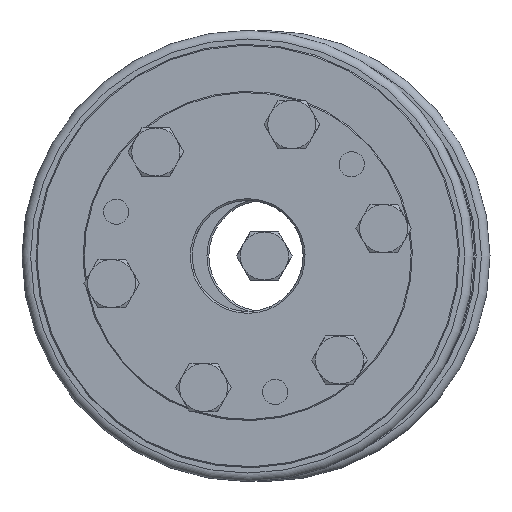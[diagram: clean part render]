
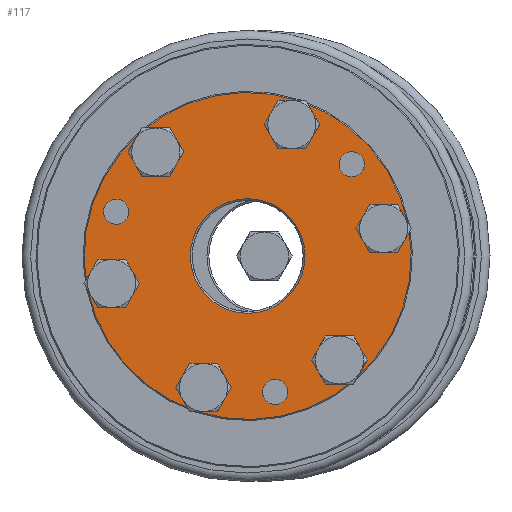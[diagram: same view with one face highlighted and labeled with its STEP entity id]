
A CAD part, left-side view. The second image highlights one B-rep face of the part: STEP entity #117.
In plain terms, the highlighted planar face has unit normal (-1, 0, 0).
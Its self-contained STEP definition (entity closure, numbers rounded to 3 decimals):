
#117 = ADVANCED_FACE( 'NONE', ( #249, #250, #251, #252, #253, #254, #255, #256, #257, #258, #259 ), #260, .F. );
#249 = FACE_OUTER_BOUND( '', #403, .T. );
#250 = FACE_BOUND( '', #404, .T. );
#251 = FACE_BOUND( '', #405, .T. );
#252 = FACE_BOUND( '', #406, .T. );
#253 = FACE_BOUND( '', #407, .T. );
#254 = FACE_BOUND( '', #408, .T. );
#255 = FACE_BOUND( '', #409, .T. );
#256 = FACE_BOUND( '', #410, .T. );
#257 = FACE_BOUND( '', #411, .T. );
#258 = FACE_BOUND( '', #412, .T. );
#259 = FACE_BOUND( '', #413, .T. );
#260 = PLANE( '', #414 );
#403 = EDGE_LOOP( '', ( #663 ) );
#404 = EDGE_LOOP( '', ( #664 ) );
#405 = EDGE_LOOP( '', ( #665 ) );
#406 = EDGE_LOOP( '', ( #666 ) );
#407 = EDGE_LOOP( '', ( #667 ) );
#408 = EDGE_LOOP( '', ( #668 ) );
#409 = EDGE_LOOP( '', ( #669 ) );
#410 = EDGE_LOOP( '', ( #670 ) );
#411 = EDGE_LOOP( '', ( #671 ) );
#412 = EDGE_LOOP( '', ( #672 ) );
#413 = EDGE_LOOP( '', ( #673 ) );
#414 = AXIS2_PLACEMENT_3D( '', #674, #675, #676 );
#663 = ORIENTED_EDGE( '', *, *, #926, .T. );
#664 = ORIENTED_EDGE( '', *, *, #904, .T. );
#665 = ORIENTED_EDGE( '', *, *, #922, .F. );
#666 = ORIENTED_EDGE( '', *, *, #898, .F. );
#667 = ORIENTED_EDGE( '', *, *, #907, .F. );
#668 = ORIENTED_EDGE( '', *, *, #942, .F. );
#669 = ORIENTED_EDGE( '', *, *, #933, .F. );
#670 = ORIENTED_EDGE( '', *, *, #929, .F. );
#671 = ORIENTED_EDGE( '', *, *, #916, .F. );
#672 = ORIENTED_EDGE( '', *, *, #944, .F. );
#673 = ORIENTED_EDGE( '', *, *, #910, .F. );
#674 = CARTESIAN_POINT( '', ( 0., 15., 0. ) );
#675 = DIRECTION( '', ( 1., 0., 0. ) );
#676 = DIRECTION( '', ( 0., 1., 0. ) );
#898 = EDGE_CURVE( 'NONE', #1157, #1157, #1158, .T. );
#904 = EDGE_CURVE( 'NONE', #1167, #1167, #1168, .T. );
#907 = EDGE_CURVE( 'NONE', #1172, #1172, #1173, .T. );
#910 = EDGE_CURVE( 'NONE', #1177, #1177, #1178, .T. );
#916 = EDGE_CURVE( 'NONE', #1187, #1187, #1188, .T. );
#922 = EDGE_CURVE( 'NONE', #1197, #1197, #1198, .T. );
#926 = EDGE_CURVE( 'NONE', #1204, #1204, #1205, .T. );
#929 = EDGE_CURVE( 'NONE', #1208, #1208, #1209, .T. );
#933 = EDGE_CURVE( 'NONE', #1214, #1214, #1215, .T. );
#942 = EDGE_CURVE( 'NONE', #1229, #1229, #1230, .T. );
#944 = EDGE_CURVE( 'NONE', #1232, #1232, #1233, .T. );
#1157 = VERTEX_POINT( '', #1632 );
#1158 = CIRCLE( '', #1633, 4.5 );
#1167 = VERTEX_POINT( '', #1642 );
#1168 = CIRCLE( '', #1643, 15.5 );
#1172 = VERTEX_POINT( '', #1647 );
#1173 = CIRCLE( '', #1648, 4.5 );
#1177 = VERTEX_POINT( '', #1652 );
#1178 = CIRCLE( '', #1653, 3.4 );
#1187 = VERTEX_POINT( '', #1662 );
#1188 = CIRCLE( '', #1663, 4.5 );
#1197 = VERTEX_POINT( '', #1672 );
#1198 = CIRCLE( '', #1673, 3.4 );
#1204 = VERTEX_POINT( '', #1679 );
#1205 = CIRCLE( '', #1680, 44.2 );
#1208 = VERTEX_POINT( '', #1683 );
#1209 = CIRCLE( '', #1684, 4.5 );
#1214 = VERTEX_POINT( '', #1689 );
#1215 = CIRCLE( '', #1690, 4.5 );
#1229 = VERTEX_POINT( '', #1704 );
#1230 = CIRCLE( '', #1705, 4.5 );
#1232 = VERTEX_POINT( '', #1707 );
#1233 = CIRCLE( '', #1708, 3.4 );
#1632 = CARTESIAN_POINT( '', ( 0., 18.75, 36.976 ) );
#1633 = AXIS2_PLACEMENT_3D( '', #1804, #1805, #1806 );
#1642 = CARTESIAN_POINT( '', ( 0., 0., -15.5 ) );
#1643 = AXIS2_PLACEMENT_3D( '', #1816, #1817, #1818 );
#1647 = CARTESIAN_POINT( '', ( 0., 37.5, 4.5 ) );
#1648 = AXIS2_PLACEMENT_3D( '', #1822, #1823, #1824 );
#1652 = CARTESIAN_POINT( '', ( 0., -32.476, 22.15 ) );
#1653 = AXIS2_PLACEMENT_3D( '', #1828, #1829, #1830 );
#1662 = CARTESIAN_POINT( '', ( 0., -18.75, 36.976 ) );
#1663 = AXIS2_PLACEMENT_3D( '', #1840, #1841, #1842 );
#1672 = CARTESIAN_POINT( '', ( 0., 0., -34.1 ) );
#1673 = AXIS2_PLACEMENT_3D( '', #1852, #1853, #1854 );
#1679 = CARTESIAN_POINT( '', ( 0., 0., -44.2 ) );
#1680 = AXIS2_PLACEMENT_3D( '', #1861, #1862, #1863 );
#1683 = CARTESIAN_POINT( '', ( 0., -37.5, 4.5 ) );
#1684 = AXIS2_PLACEMENT_3D( '', #1864, #1865, #1866 );
#1689 = CARTESIAN_POINT( '', ( 0., -18.75, -27.976 ) );
#1690 = AXIS2_PLACEMENT_3D( '', #1870, #1871, #1872 );
#1704 = CARTESIAN_POINT( '', ( 0., 18.75, -27.976 ) );
#1705 = AXIS2_PLACEMENT_3D( '', #1888, #1889, #1890 );
#1707 = CARTESIAN_POINT( '', ( 0., 32.476, 22.15 ) );
#1708 = AXIS2_PLACEMENT_3D( '', #1891, #1892, #1893 );
#1804 = CARTESIAN_POINT( '', ( 0., 18.75, 32.476 ) );
#1805 = DIRECTION( '', ( -1., 0., 0. ) );
#1806 = DIRECTION( '', ( 0., 0., 1. ) );
#1816 = CARTESIAN_POINT( '', ( 0., 0., 0. ) );
#1817 = DIRECTION( '', ( 1., 0., 0. ) );
#1818 = DIRECTION( '', ( 0., 0., -1. ) );
#1822 = CARTESIAN_POINT( '', ( 0., 37.5, 0. ) );
#1823 = DIRECTION( '', ( -1., 0., 0. ) );
#1824 = DIRECTION( '', ( 0., 0., 1. ) );
#1828 = CARTESIAN_POINT( '', ( 0., -32.476, 18.75 ) );
#1829 = DIRECTION( '', ( -1., 0., 0. ) );
#1830 = DIRECTION( '', ( 0., 0., 1. ) );
#1840 = CARTESIAN_POINT( '', ( 0., -18.75, 32.476 ) );
#1841 = DIRECTION( '', ( -1., 0., 0. ) );
#1842 = DIRECTION( '', ( 0., 0., 1. ) );
#1852 = CARTESIAN_POINT( '', ( 0., 0., -37.5 ) );
#1853 = DIRECTION( '', ( -1., 0., 0. ) );
#1854 = DIRECTION( '', ( 0., 0., 1. ) );
#1861 = CARTESIAN_POINT( '', ( 0., 0., 0. ) );
#1862 = DIRECTION( '', ( -1., 0., 0. ) );
#1863 = DIRECTION( '', ( 0., 0., -1. ) );
#1864 = CARTESIAN_POINT( '', ( 0., -37.5, 0. ) );
#1865 = DIRECTION( '', ( -1., 0., 0. ) );
#1866 = DIRECTION( '', ( 0., 0., 1. ) );
#1870 = CARTESIAN_POINT( '', ( 0., -18.75, -32.476 ) );
#1871 = DIRECTION( '', ( -1., 0., 0. ) );
#1872 = DIRECTION( '', ( 0., 0., 1. ) );
#1888 = CARTESIAN_POINT( '', ( 0., 18.75, -32.476 ) );
#1889 = DIRECTION( '', ( -1., 0., 0. ) );
#1890 = DIRECTION( '', ( 0., 0., 1. ) );
#1891 = CARTESIAN_POINT( '', ( 0., 32.476, 18.75 ) );
#1892 = DIRECTION( '', ( -1., 0., 0. ) );
#1893 = DIRECTION( '', ( 0., 0., 1. ) );
